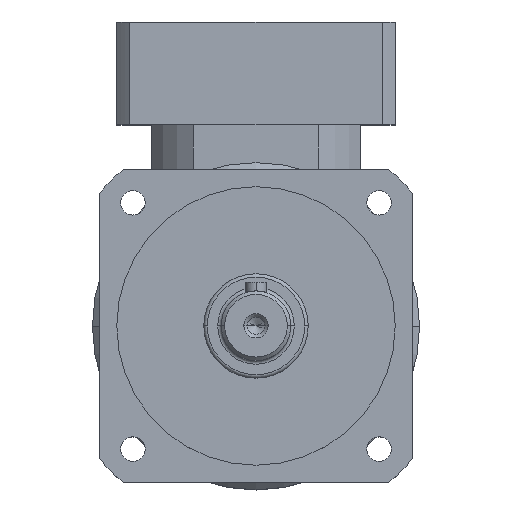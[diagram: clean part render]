
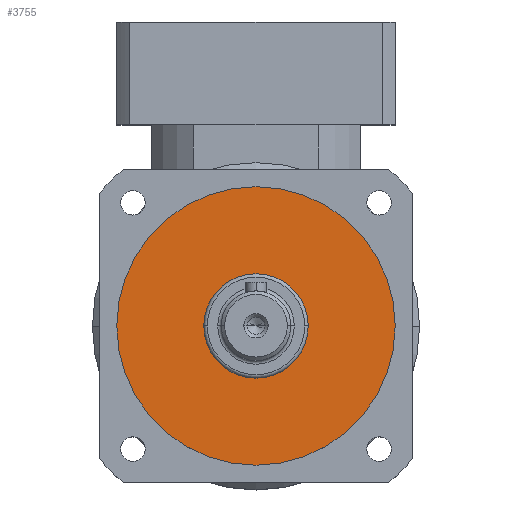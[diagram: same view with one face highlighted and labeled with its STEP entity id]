
A CAD part, top view. The second image highlights one B-rep face of the part: STEP entity #3755.
In plain terms, the highlighted planar face has unit normal (0, 0, 1).
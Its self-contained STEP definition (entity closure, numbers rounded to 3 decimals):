
#121 = CARTESIAN_POINT ( 'NONE',  ( -40., 0., 13. ) ) ;
#250 = FACE_OUTER_BOUND ( 'NONE', #5832, .T. ) ;
#488 = CARTESIAN_POINT ( 'NONE',  ( 0., 0., 13. ) ) ;
#531 = EDGE_CURVE ( 'NONE', #2568, #7215, #2361, .T. ) ;
#677 = CARTESIAN_POINT ( 'NONE',  ( 0., 0., 13. ) ) ;
#749 = DIRECTION ( 'NONE',  ( 0., 0., 1. ) ) ;
#769 = PLANE ( 'NONE',  #3951 ) ;
#1064 = AXIS2_PLACEMENT_3D ( 'NONE', #677, #749, #6391 ) ;
#1117 = EDGE_CURVE ( 'NONE', #5877, #5177, #6527, .T. ) ;
#1365 = ORIENTED_EDGE ( 'NONE', *, *, #4426, .F. ) ;
#1920 = FACE_BOUND ( 'NONE', #4700, .T. ) ;
#2361 = CIRCLE ( 'NONE', #1064, 40. ) ;
#2424 = ORIENTED_EDGE ( 'NONE', *, *, #531, .T. ) ;
#2506 = DIRECTION ( 'NONE',  ( 1., 0., 0. ) ) ;
#2568 = VERTEX_POINT ( 'NONE', #5974 ) ;
#2626 = CARTESIAN_POINT ( 'NONE',  ( -15., 0., 13. ) ) ;
#3065 = DIRECTION ( 'NONE',  ( 0., 0., 1. ) ) ;
#3345 = DIRECTION ( 'NONE',  ( 0., 0., 1. ) ) ;
#3755 = ADVANCED_FACE ( 'NONE', ( #1920, #250 ), #769, .T. ) ;
#3840 = CIRCLE ( 'NONE', #5626, 40. ) ;
#3941 = EDGE_CURVE ( 'NONE', #7215, #2568, #3840, .T. ) ;
#3951 = AXIS2_PLACEMENT_3D ( 'NONE', #7075, #3065, #2506 ) ;
#4214 = CARTESIAN_POINT ( 'NONE',  ( 15., 0., 13. ) ) ;
#4426 = EDGE_CURVE ( 'NONE', #5177, #5877, #5862, .T. ) ;
#4700 = EDGE_LOOP ( 'NONE', ( #4827, #1365 ) ) ;
#4827 = ORIENTED_EDGE ( 'NONE', *, *, #1117, .F. ) ;
#4931 = CARTESIAN_POINT ( 'NONE',  ( 0., 0., 13. ) ) ;
#5099 = CARTESIAN_POINT ( 'NONE',  ( 0., 0., 13. ) ) ;
#5177 = VERTEX_POINT ( 'NONE', #2626 ) ;
#5494 = DIRECTION ( 'NONE',  ( 0., 0., 1. ) ) ;
#5626 = AXIS2_PLACEMENT_3D ( 'NONE', #4931, #5494, #6043 ) ;
#5832 = EDGE_LOOP ( 'NONE', ( #5882, #2424 ) ) ;
#5862 = CIRCLE ( 'NONE', #6100, 15. ) ;
#5877 = VERTEX_POINT ( 'NONE', #4214 ) ;
#5882 = ORIENTED_EDGE ( 'NONE', *, *, #3941, .T. ) ;
#5974 = CARTESIAN_POINT ( 'NONE',  ( 40., 0., 13. ) ) ;
#6043 = DIRECTION ( 'NONE',  ( 1., 0., 0. ) ) ;
#6100 = AXIS2_PLACEMENT_3D ( 'NONE', #5099, #3345, #7284 ) ;
#6391 = DIRECTION ( 'NONE',  ( 1., 0., 0. ) ) ;
#6527 = CIRCLE ( 'NONE', #6880, 15. ) ;
#6718 = DIRECTION ( 'NONE',  ( 0., 0., 1. ) ) ;
#6754 = DIRECTION ( 'NONE',  ( 1., 0., 0. ) ) ;
#6880 = AXIS2_PLACEMENT_3D ( 'NONE', #488, #6718, #6754 ) ;
#7075 = CARTESIAN_POINT ( 'NONE',  ( 0., 0., 13. ) ) ;
#7215 = VERTEX_POINT ( 'NONE', #121 ) ;
#7284 = DIRECTION ( 'NONE',  ( 1., 0., 0. ) ) ;
